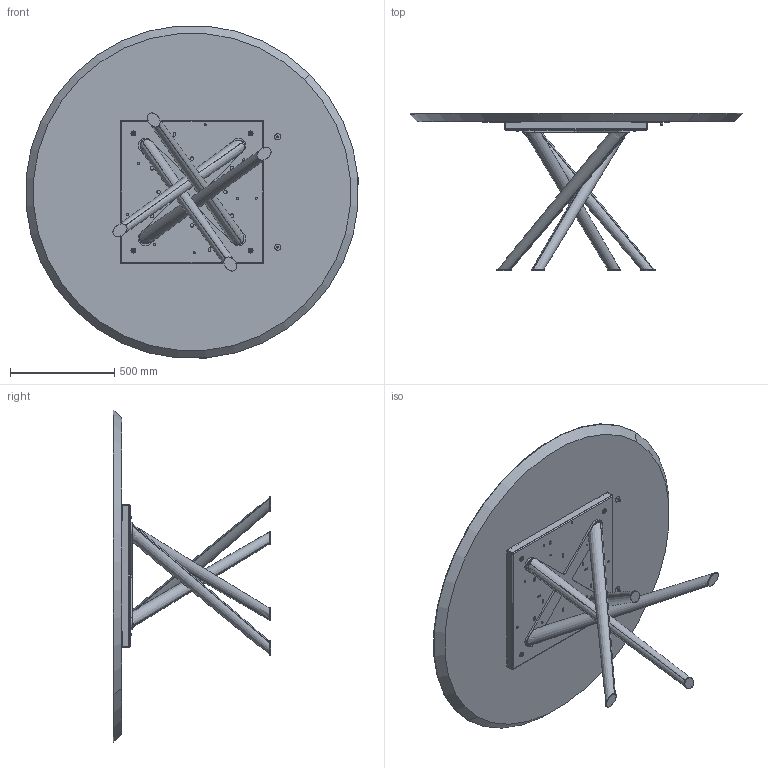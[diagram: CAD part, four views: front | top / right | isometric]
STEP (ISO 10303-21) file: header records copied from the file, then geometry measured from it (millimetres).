
FILE_DESCRIPTION (( 'STEP AP203' ), '1' );
FILE_NAME ('BA08W.STEP', '2024-08-08T06:42:17', ( '' ), ( '' ), 'SwSTEP 2.0', 'SolidWorks 2022', '' );
FILE_SCHEMA (( 'CONFIG_CONTROL_DESIGN' ));
Length unit declared in the file: millimetre
Products named in the file (15): Parte5^BAB000000-00-BALY BASE GREZZA; BAB000000_01-00-Croce Superiore baly; 434070-00-PIEDINO TPV GOMMA NERO D. 30x8max18; rondella M8_8X16; TTAV0801-02-TELAIO UNIVERSALE TONDO-VASSOIO; W1XCMXX-00-Piani Rotondi legno_D.1600; M8xXXmm_M8x55mm; BAB000000_02-00-basamento pali conificati; TTAV0801 TELAIO UNIVERSALE TONDO-PIASTRINA; BAB000000-00-BALY BASE GREZZA; TTAV0801-02-TELAIO UNIVERSALE TONDO; rondella M8_8X24; BA08W; M8xXXmm_M8x20mm; COLLO TELAIO UNIVERSALE TTAV0801 CON FERRAMENTA_MTG TOP LEGNO-MARMO-KING
Assembly tree (38 placements, depth 4):
  BA08W
    W1XCMXX-00-Piani Rotondi legno_D.1600
    BAB000000-00-BALY BASE GREZZA
      BAB000000_01-00-Croce Superiore baly
      BAB000000_02-00-basamento pali conificati
      Parte5^BAB000000-00-BALY BASE GREZZA
    COLLO TELAIO UNIVERSALE TTAV0801 CON FERRAMENTA_MTG TOP LEGNO-MARMO-KING
      TTAV0801-02-TELAIO UNIVERSALE TONDO
        TTAV0801-02-TELAIO UNIVERSALE TONDO-VASSOIO
        TTAV0801 TELAIO UNIVERSALE TONDO-PIASTRINA  x4
      rondella M8_8X24  x4
      M8xXXmm_M8x55mm  x4
    434070-00-PIEDINO TPV GOMMA NERO D. 30x8max18  x2
    M8xXXmm_M8x20mm  x8
    rondella M8_8X16  x8
Bounding box: 1593.91 x 755 x 1593.91 mm (x, y, z)
Volume: 81740033.5 mm3; surface area: 6943031.2 mm2
Topology: 43 solids, 43 shells, 1103 faces, 2645 edges, 1612 vertices
Faces by surface type: plane 446, cylinder 339, cone 158, torus 152, bspline 8
Entity records: 19283 total; most frequent: CARTESIAN_POINT 4476, DIRECTION 2712, ORIENTED_EDGE 2560, EDGE_CURVE 1280, AXIS2_PLACEMENT_3D 994, VERTEX_POINT 818, LINE 724, VECTOR 724
